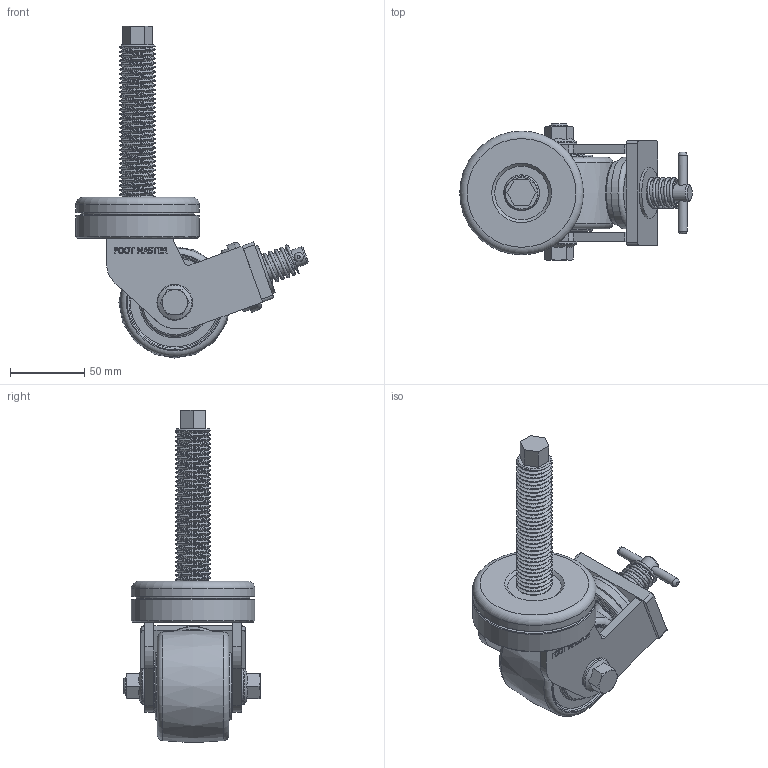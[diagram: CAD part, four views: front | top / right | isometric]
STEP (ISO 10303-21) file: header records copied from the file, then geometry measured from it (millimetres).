
FILE_DESCRIPTION(/* description */ (''),/* implementation_level */ '2;1');
FILE_NAME(/* name */ 'D:/GXT-75-BSS-NYD-PM24x115L v1.step',/* time_stamp */ '2022-03-28T16:20:09+09:00',/* author */ (''),/* organization */ (''),/* preprocessor_version */ 'ST-DEVELOPER v18.1',/* originating_system */ 'Autodesk Translation Framework v10.13.0.1454',/* authorisation */ '');
FILE_SCHEMA (('AUTOMOTIVE_DESIGN { 1 0 10303 214 3 1 1 }'));
Length unit declared in the file: millimetre
Products named in the file (1): GXT-75-BSS-NYD-PM24x115L
Bounding box: 156.07 x 91.5 x 222.88 mm (x, y, z)
Volume: 504522.7 mm3; surface area: 89373.7 mm2
Topology: 1 solids, 1 shells, 546 faces, 1401 edges, 923 vertices
Faces by surface type: plane 268, cylinder 112, bspline 110, cone 31, torus 25
Full cylindrical faces by diameter (mm): 4 x1, 6 x2, 8 x1, 8.2 x2, 8.4 x1, 12 x2, 12.2 x1, 16 x1, 17 x2, 19.4 x1, 20.329 x33, 21.5 x2, 23.765 x34, 24 x2, 24.9 x1, 30 x1, 34 x1, 34.9 x1, 35 x2, 44 x1, 48 x1, 76.2 x1, 83 x2
Entity records: 31352 total; most frequent: CARTESIAN_POINT 18910, ORIENTED_EDGE 2800, DIRECTION 2069, EDGE_CURVE 1400, VERTEX_POINT 923, LINE 803, VECTOR 803, AXIS2_PLACEMENT_3D 633
